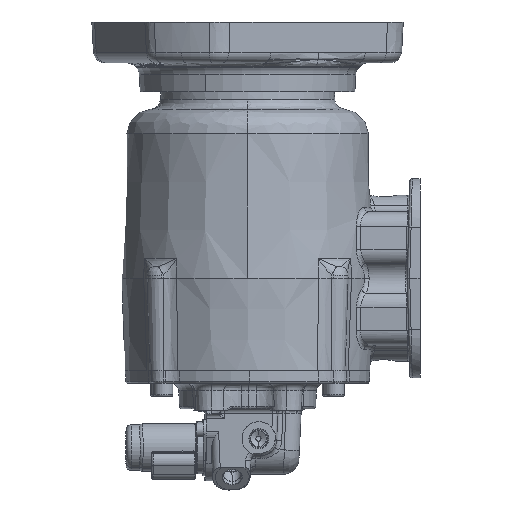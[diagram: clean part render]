
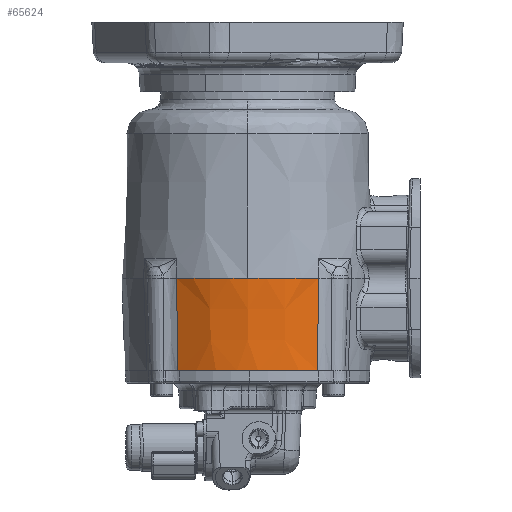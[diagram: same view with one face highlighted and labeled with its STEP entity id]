
A CAD part, left-side view. The second image highlights one B-rep face of the part: STEP entity #65624.
In plain terms, the highlighted conical face has half-angle 2 degrees and reference radius 78.232 mm.
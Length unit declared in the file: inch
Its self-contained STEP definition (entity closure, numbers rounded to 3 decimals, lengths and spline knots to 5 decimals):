
#931 = CARTESIAN_POINT ( 'NONE',  ( -3.79389, 1.59322, 0. ) ) ;
#4213 = CARTESIAN_POINT ( 'NONE',  ( -3.71437, 5.04203, -2.2645 ) ) ;
#13839 = EDGE_CURVE ( 'NONE', #95947, #127435, #90935, .T. ) ;
#18907 = CARTESIAN_POINT ( 'NONE',  ( -1.25, 3.3296, -2.2645 ) ) ;
#23095 = DIRECTION ( 'NONE',  ( 1., 0., 0. ) ) ;
#24098 = VERTEX_POINT ( 'NONE', #36801 ) ;
#36801 = CARTESIAN_POINT ( 'NONE',  ( -3.79389, 5.06598, 0. ) ) ;
#38118 = DIRECTION ( 'NONE',  ( 0., 0., 1. ) ) ;
#46734 = CARTESIAN_POINT ( 'NONE',  ( -3.76676, 5.05766, -0.77621 ) ) ;
#51966 = FACE_OUTER_BOUND ( 'NONE', #56708, .T. ) ;
#54256 = CARTESIAN_POINT ( 'NONE',  ( -3.79389, 1.59322, 0. ) ) ;
#56708 = EDGE_LOOP ( 'NONE', ( #66957, #87683, #130656, #126869, #75168 ) ) ;
#57462 = CARTESIAN_POINT ( 'NONE',  ( -3.74025, 5.04967, -1.53104 ) ) ;
#58783 = AXIS2_PLACEMENT_3D ( 'NONE', #120638, #38118, #23095 ) ;
#59792 = VERTEX_POINT ( 'NONE', #88441 ) ;
#60576 = DIRECTION ( 'NONE',  ( 0., 0., -1. ) ) ;
#62692 = CARTESIAN_POINT ( 'NONE',  ( -1.25, 3.3296, 0. ) ) ;
#65624 = ADVANCED_FACE ( 'NONE', ( #51966 ), #139511, .T. ) ;
#66957 = ORIENTED_EDGE ( 'NONE', *, *, #104246, .F. ) ;
#68097 = AXIS2_PLACEMENT_3D ( 'NONE', #18907, #60576, #100518 ) ;
#71047 = CIRCLE ( 'NONE', #68097, 3.00092 ) ;
#75168 = ORIENTED_EDGE ( 'NONE', *, *, #94896, .F. ) ;
#76023 = DIRECTION ( 'NONE',  ( 0., 0., 1. ) ) ;
#81711 = CARTESIAN_POINT ( 'NONE',  ( -1.25, 3.3296, 0. ) ) ;
#83445 = CARTESIAN_POINT ( 'NONE',  ( -3.71437, 1.61717, -2.2645 ) ) ;
#87683 = ORIENTED_EDGE ( 'NONE', *, *, #93500, .T. ) ;
#88441 = CARTESIAN_POINT ( 'NONE',  ( -3.71437, 5.04203, -2.2645 ) ) ;
#90935 = B_SPLINE_CURVE_WITH_KNOTS ( 'NONE', 3,
 ( #83445, #153450, #151719, #931 ),
 .UNSPECIFIED., .F., .F.,
 ( 4, 4 ),
 ( 0., 1. ),
 .UNSPECIFIED. ) ;
#92831 = CARTESIAN_POINT ( 'NONE',  ( -4.33, 3.3296, 0. ) ) ;
#93500 = EDGE_CURVE ( 'NONE', #24098, #59792, #146902, .T. ) ;
#94896 = EDGE_CURVE ( 'NONE', #107652, #127435, #100883, .T. ) ;
#95947 = VERTEX_POINT ( 'NONE', #163752 ) ;
#100518 = DIRECTION ( 'NONE',  ( 1., 0., 0. ) ) ;
#100883 = CIRCLE ( 'NONE', #157443, 3.08 ) ;
#104246 = EDGE_CURVE ( 'NONE', #24098, #107652, #169292, .T. ) ;
#107652 = VERTEX_POINT ( 'NONE', #92831 ) ;
#113311 = CARTESIAN_POINT ( 'NONE',  ( -3.79389, 5.06598, 0. ) ) ;
#115288 = EDGE_CURVE ( 'NONE', #95947, #59792, #71047, .T. ) ;
#120638 = CARTESIAN_POINT ( 'NONE',  ( -1.25, 3.3296, 0. ) ) ;
#126869 = ORIENTED_EDGE ( 'NONE', *, *, #13839, .T. ) ;
#127435 = VERTEX_POINT ( 'NONE', #54256 ) ;
#130656 = ORIENTED_EDGE ( 'NONE', *, *, #115288, .F. ) ;
#130995 = DIRECTION ( 'NONE',  ( 1., 0., 0. ) ) ;
#139511 = CONICAL_SURFACE ( 'NONE', #167868, 3.08, 0.035 ) ;
#146488 = DIRECTION ( 'NONE',  ( 1., 0., 0. ) ) ;
#146902 = B_SPLINE_CURVE_WITH_KNOTS ( 'NONE', 3,
 ( #113311, #46734, #57462, #4213 ),
 .UNSPECIFIED., .F., .F.,
 ( 4, 4 ),
 ( 0., 1. ),
 .UNSPECIFIED. ) ;
#151719 = CARTESIAN_POINT ( 'NONE',  ( -3.76676, 1.60154, -0.77621 ) ) ;
#153450 = CARTESIAN_POINT ( 'NONE',  ( -3.74025, 1.60953, -1.53104 ) ) ;
#157443 = AXIS2_PLACEMENT_3D ( 'NONE', #81711, #159765, #146488 ) ;
#159765 = DIRECTION ( 'NONE',  ( 0., 0., 1. ) ) ;
#163752 = CARTESIAN_POINT ( 'NONE',  ( -3.71437, 1.61717, -2.2645 ) ) ;
#167868 = AXIS2_PLACEMENT_3D ( 'NONE', #62692, #76023, #130995 ) ;
#169292 = CIRCLE ( 'NONE', #58783, 3.08 ) ;
